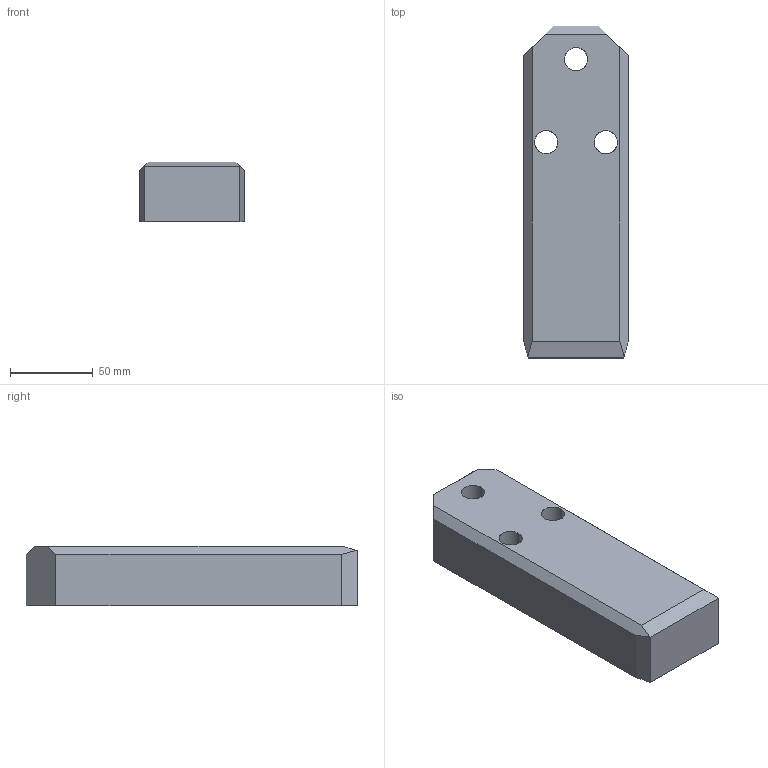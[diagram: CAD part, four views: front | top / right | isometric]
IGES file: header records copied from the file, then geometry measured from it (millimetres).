
Start section: START RECORD GO HERE.
Global section: file name: A927-63X200X36.igs; native system: DASSAULT SYSTEMES CATIA V5 R20 - www.3ds.com; preprocessor: CATIA Version 5 Release 20 ; author: Utente; organization: NB04-ASUS; date: 20200408.202740; units: millimetre
Bounding box: 63 x 200 x 36 mm (x, y, z)
Surface area: 45705.6 mm2 (no closed solid volume)
Topology: 0 solids, 0 shells, 35 faces, 168 edges, 168 vertices
Faces by surface type: revolution 18, extrusion 17
